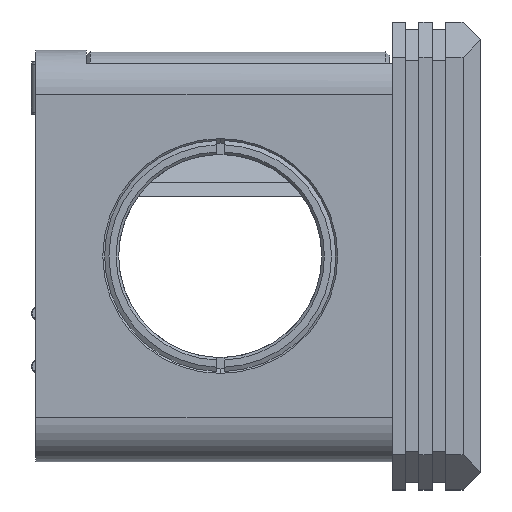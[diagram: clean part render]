
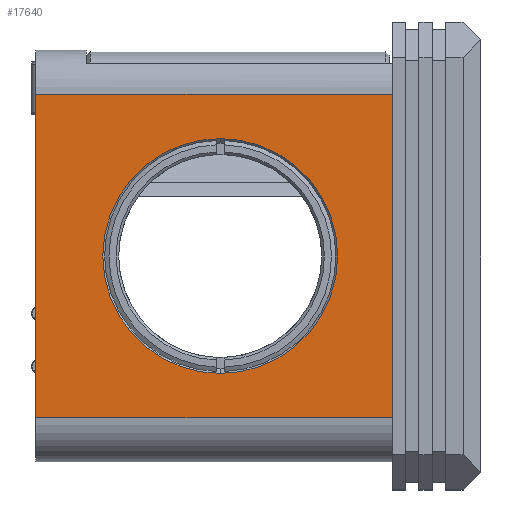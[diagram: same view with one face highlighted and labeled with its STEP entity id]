
A CAD part, left-side view. The second image highlights one B-rep face of the part: STEP entity #17640.
In plain terms, the highlighted planar face has unit normal (-1, 0, 0).
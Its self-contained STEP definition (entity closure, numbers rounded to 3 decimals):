
#41 = FACE_OUTER_BOUND ( 'NONE', #521, .T. ) ;
#296 = DIRECTION ( 'NONE',  ( 0., 0., 1. ) ) ;
#468 = EDGE_CURVE ( 'NONE', #1492, #14113, #471, .T. ) ;
#471 = LINE ( 'NONE', #17559, #10626 ) ;
#521 = EDGE_LOOP ( 'NONE', ( #10566, #17414, #13783, #5921 ) ) ;
#1442 = DIRECTION ( 'NONE',  ( 0., 0., 1. ) ) ;
#1492 = VERTEX_POINT ( 'NONE', #13512 ) ;
#3103 = CARTESIAN_POINT ( 'NONE',  ( -23.3, 10., -23.3 ) ) ;
#3292 = CARTESIAN_POINT ( 'NONE',  ( -23.3, 29.5, 0. ) ) ;
#3516 = EDGE_LOOP ( 'NONE', ( #5903, #10516 ) ) ;
#4271 = VERTEX_POINT ( 'NONE', #5590 ) ;
#4460 = CIRCLE ( 'NONE', #6815, 13.3 ) ;
#4599 = EDGE_CURVE ( 'NONE', #14113, #9712, #15987, .T. ) ;
#5590 = CARTESIAN_POINT ( 'NONE',  ( -23.3, 29.5, 13.3 ) ) ;
#5884 = PLANE ( 'NONE',  #16321 ) ;
#5903 = ORIENTED_EDGE ( 'NONE', *, *, #16565, .T. ) ;
#5921 = ORIENTED_EDGE ( 'NONE', *, *, #4599, .T. ) ;
#5973 = CIRCLE ( 'NONE', #7447, 13.3 ) ;
#6159 = DIRECTION ( 'NONE',  ( 0., 0., -1. ) ) ;
#6815 = AXIS2_PLACEMENT_3D ( 'NONE', #17572, #10116, #296 ) ;
#6991 = VERTEX_POINT ( 'NONE', #9640 ) ;
#7166 = VECTOR ( 'NONE', #6159, 1000. ) ;
#7447 = AXIS2_PLACEMENT_3D ( 'NONE', #3292, #17403, #9028 ) ;
#7620 = CARTESIAN_POINT ( 'NONE',  ( -23.3, 29.5, -13.3 ) ) ;
#8930 = FACE_BOUND ( 'NONE', #3516, .T. ) ;
#9028 = DIRECTION ( 'NONE',  ( 0., 0., 1. ) ) ;
#9640 = CARTESIAN_POINT ( 'NONE',  ( -23.3, 10., 18.3 ) ) ;
#9712 = VERTEX_POINT ( 'NONE', #17939 ) ;
#10116 = DIRECTION ( 'NONE',  ( 1., 0., 0. ) ) ;
#10516 = ORIENTED_EDGE ( 'NONE', *, *, #14870, .T. ) ;
#10566 = ORIENTED_EDGE ( 'NONE', *, *, #16556, .F. ) ;
#10626 = VECTOR ( 'NONE', #17364, 1000. ) ;
#10948 = EDGE_CURVE ( 'NONE', #6991, #1492, #12818, .T. ) ;
#11274 = LINE ( 'NONE', #15604, #7166 ) ;
#11333 = DIRECTION ( 'NONE',  ( 1., 0., 0. ) ) ;
#11402 = CARTESIAN_POINT ( 'NONE',  ( -23.3, 10., -18.3 ) ) ;
#12818 = LINE ( 'NONE', #15753, #16561 ) ;
#12904 = DIRECTION ( 'NONE',  ( 0., 1., 0. ) ) ;
#13512 = CARTESIAN_POINT ( 'NONE',  ( -23.3, 50.4, 18.3 ) ) ;
#13783 = ORIENTED_EDGE ( 'NONE', *, *, #468, .T. ) ;
#13864 = CARTESIAN_POINT ( 'NONE',  ( -23.3, 50.4, -18.3 ) ) ;
#14113 = VERTEX_POINT ( 'NONE', #13864 ) ;
#14870 = EDGE_CURVE ( 'NONE', #4271, #15955, #4460, .T. ) ;
#15604 = CARTESIAN_POINT ( 'NONE',  ( -23.3, 10., -23.3 ) ) ;
#15753 = CARTESIAN_POINT ( 'NONE',  ( -23.3, 10., 18.3 ) ) ;
#15955 = VERTEX_POINT ( 'NONE', #7620 ) ;
#15987 = LINE ( 'NONE', #11402, #17882 ) ;
#16321 = AXIS2_PLACEMENT_3D ( 'NONE', #3103, #11333, #1442 ) ;
#16556 = EDGE_CURVE ( 'NONE', #6991, #9712, #11274, .T. ) ;
#16561 = VECTOR ( 'NONE', #12904, 1000. ) ;
#16565 = EDGE_CURVE ( 'NONE', #15955, #4271, #5973, .T. ) ;
#17029 = DIRECTION ( 'NONE',  ( 0., -1., 0. ) ) ;
#17364 = DIRECTION ( 'NONE',  ( 0., 0., -1. ) ) ;
#17403 = DIRECTION ( 'NONE',  ( 1., 0., 0. ) ) ;
#17414 = ORIENTED_EDGE ( 'NONE', *, *, #10948, .T. ) ;
#17559 = CARTESIAN_POINT ( 'NONE',  ( -23.3, 50.4, -23.3 ) ) ;
#17572 = CARTESIAN_POINT ( 'NONE',  ( -23.3, 29.5, 0. ) ) ;
#17640 = ADVANCED_FACE ( 'NONE', ( #8930, #41 ), #5884, .F. ) ;
#17882 = VECTOR ( 'NONE', #17029, 1000. ) ;
#17939 = CARTESIAN_POINT ( 'NONE',  ( -23.3, 10., -18.3 ) ) ;
